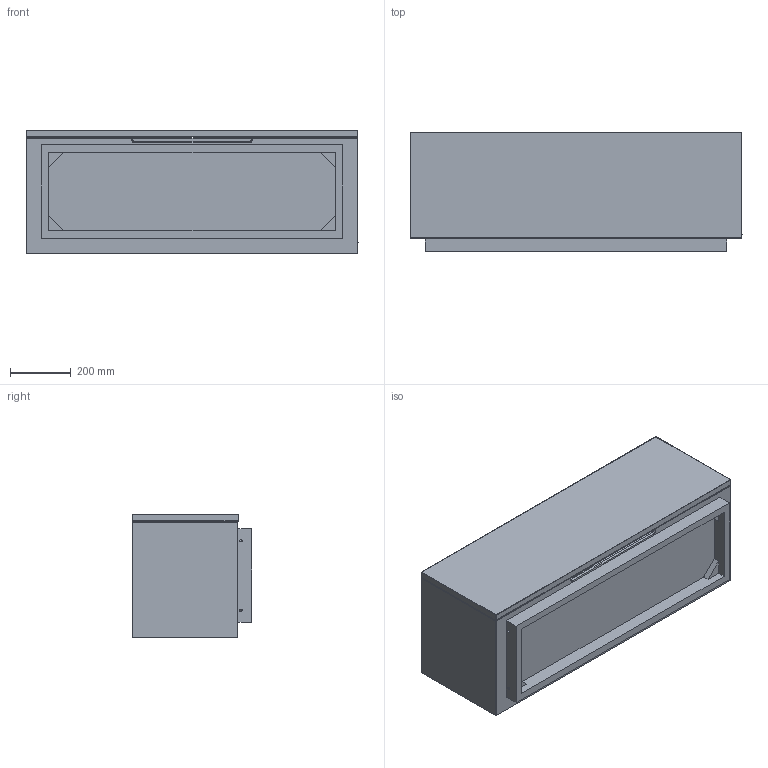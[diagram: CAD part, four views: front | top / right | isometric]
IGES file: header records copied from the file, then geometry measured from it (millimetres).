
Start section: SolidWorks IGES file using analytic representation for surfaces
Global section: file name: \\UTENTI\Dati Utenti\Tecnico\DC\2D - 3D per sito\3D\DeCastelli-3D-Tako Floor console 110.igs; native system: SolidWorks 2022; preprocessor: SolidWorks 2022; author: maria; date: 240725.084350; units: millimetre
Bounding box: 1097.5 x 393.5 x 407 mm (x, y, z)
Surface area: 3826395.4 mm2 (no closed solid volume)
Topology: 0 solids, 0 shells, 100 faces, 984 edges, 984 vertices
Faces by surface type: bspline 77, revolution 23
